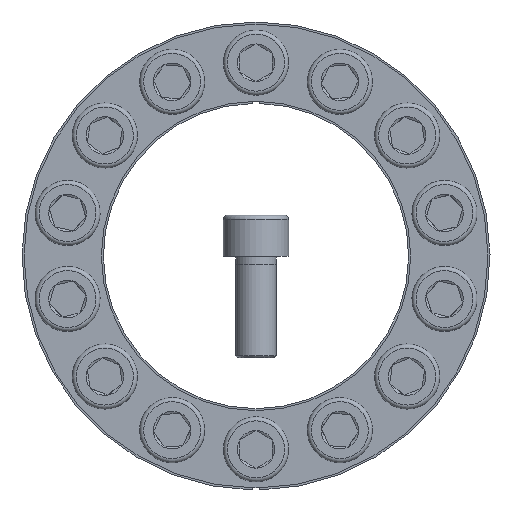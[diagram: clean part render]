
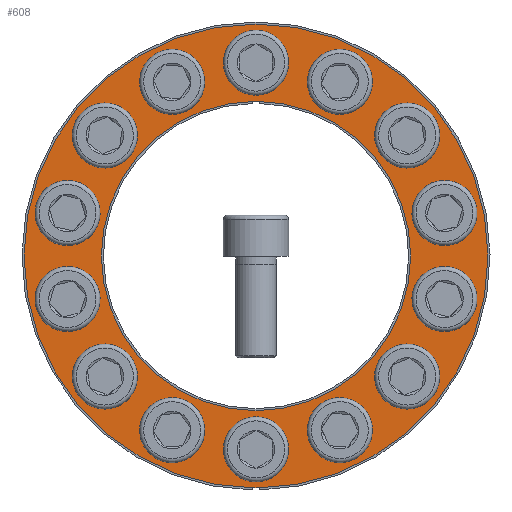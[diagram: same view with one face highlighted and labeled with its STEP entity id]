
A CAD part, front view. The second image highlights one B-rep face of the part: STEP entity #608.
In plain terms, the highlighted planar face has unit normal (0, -1, 0).
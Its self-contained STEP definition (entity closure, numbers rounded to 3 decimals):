
#608 = ADVANCED_FACE( '', ( #1149, #1150, #1151, #1152, #1153, #1154, #1155, #1156, #1157, #1158, #1159, #1160, #1161, #1162, #1163, #1164 ), #1165, .T. );
#1149 = FACE_BOUND( '', #2142, .T. );
#1150 = FACE_BOUND( '', #2143, .T. );
#1151 = FACE_BOUND( '', #2144, .T. );
#1152 = FACE_BOUND( '', #2145, .T. );
#1153 = FACE_BOUND( '', #2146, .T. );
#1154 = FACE_BOUND( '', #2147, .T. );
#1155 = FACE_BOUND( '', #2148, .T. );
#1156 = FACE_BOUND( '', #2149, .T. );
#1157 = FACE_BOUND( '', #2150, .T. );
#1158 = FACE_BOUND( '', #2151, .T. );
#1159 = FACE_BOUND( '', #2152, .T. );
#1160 = FACE_BOUND( '', #2153, .T. );
#1161 = FACE_BOUND( '', #2154, .T. );
#1162 = FACE_BOUND( '', #2155, .T. );
#1163 = FACE_BOUND( '', #2156, .T. );
#1164 = FACE_OUTER_BOUND( '', #2157, .T. );
#1165 = PLANE( '', #2158 );
#2142 = EDGE_LOOP( '', ( #3163 ) );
#2143 = EDGE_LOOP( '', ( #3164 ) );
#2144 = EDGE_LOOP( '', ( #3165 ) );
#2145 = EDGE_LOOP( '', ( #3166 ) );
#2146 = EDGE_LOOP( '', ( #3167 ) );
#2147 = EDGE_LOOP( '', ( #3168 ) );
#2148 = EDGE_LOOP( '', ( #3169 ) );
#2149 = EDGE_LOOP( '', ( #3170 ) );
#2150 = EDGE_LOOP( '', ( #3171 ) );
#2151 = EDGE_LOOP( '', ( #3172 ) );
#2152 = EDGE_LOOP( '', ( #3173 ) );
#2153 = EDGE_LOOP( '', ( #3174 ) );
#2154 = EDGE_LOOP( '', ( #3175 ) );
#2155 = EDGE_LOOP( '', ( #3176 ) );
#2156 = EDGE_LOOP( '', ( #3177 ) );
#2157 = EDGE_LOOP( '', ( #3178 ) );
#2158 = AXIS2_PLACEMENT_3D( '', #3179, #3180, #3181 );
#3163 = ORIENTED_EDGE( '', *, *, #5494, .T. );
#3164 = ORIENTED_EDGE( '', *, *, #5495, .T. );
#3165 = ORIENTED_EDGE( '', *, *, #5496, .T. );
#3166 = ORIENTED_EDGE( '', *, *, #5497, .T. );
#3167 = ORIENTED_EDGE( '', *, *, #5498, .T. );
#3168 = ORIENTED_EDGE( '', *, *, #5499, .T. );
#3169 = ORIENTED_EDGE( '', *, *, #5500, .T. );
#3170 = ORIENTED_EDGE( '', *, *, #5501, .T. );
#3171 = ORIENTED_EDGE( '', *, *, #5502, .T. );
#3172 = ORIENTED_EDGE( '', *, *, #5503, .T. );
#3173 = ORIENTED_EDGE( '', *, *, #5504, .T. );
#3174 = ORIENTED_EDGE( '', *, *, #5505, .T. );
#3175 = ORIENTED_EDGE( '', *, *, #5506, .T. );
#3176 = ORIENTED_EDGE( '', *, *, #5507, .T. );
#3177 = ORIENTED_EDGE( '', *, *, #5508, .F. );
#3178 = ORIENTED_EDGE( '', *, *, #5509, .T. );
#3179 = CARTESIAN_POINT( '', ( 0., -14., -57.5 ) );
#3180 = DIRECTION( '', ( 0., -1., 0. ) );
#3181 = DIRECTION( '', ( 0., 0., -1. ) );
#5494 = EDGE_CURVE( '', #6104, #6104, #6105, .T. );
#5495 = EDGE_CURVE( '', #6106, #6106, #6107, .T. );
#5496 = EDGE_CURVE( '', #6108, #6108, #6109, .T. );
#5497 = EDGE_CURVE( '', #6110, #6110, #6111, .T. );
#5498 = EDGE_CURVE( '', #6112, #6112, #6113, .T. );
#5499 = EDGE_CURVE( '', #6114, #6114, #6115, .T. );
#5500 = EDGE_CURVE( '', #6116, #6116, #6117, .T. );
#5501 = EDGE_CURVE( '', #6118, #6118, #6119, .T. );
#5502 = EDGE_CURVE( '', #6120, #6120, #6121, .T. );
#5503 = EDGE_CURVE( '', #6122, #6122, #6123, .T. );
#5504 = EDGE_CURVE( '', #6124, #6124, #6125, .T. );
#5505 = EDGE_CURVE( '', #6126, #6126, #6127, .T. );
#5506 = EDGE_CURVE( '', #6128, #6128, #6129, .T. );
#5507 = EDGE_CURVE( '', #6130, #6130, #6131, .T. );
#5508 = EDGE_CURVE( '', #6132, #6132, #6133, .T. );
#5509 = EDGE_CURVE( '', #6134, #6134, #6135, .T. );
#6104 = VERTEX_POINT( '', #7016 );
#6105 = CIRCLE( '', #7017, 5. );
#6106 = VERTEX_POINT( '', #7018 );
#6107 = CIRCLE( '', #7019, 5. );
#6108 = VERTEX_POINT( '', #7020 );
#6109 = CIRCLE( '', #7021, 5. );
#6110 = VERTEX_POINT( '', #7022 );
#6111 = CIRCLE( '', #7023, 5. );
#6112 = VERTEX_POINT( '', #7024 );
#6113 = CIRCLE( '', #7025, 5. );
#6114 = VERTEX_POINT( '', #7026 );
#6115 = CIRCLE( '', #7027, 5. );
#6116 = VERTEX_POINT( '', #7028 );
#6117 = CIRCLE( '', #7029, 5. );
#6118 = VERTEX_POINT( '', #7030 );
#6119 = CIRCLE( '', #7031, 5. );
#6120 = VERTEX_POINT( '', #7032 );
#6121 = CIRCLE( '', #7033, 5. );
#6122 = VERTEX_POINT( '', #7034 );
#6123 = CIRCLE( '', #7035, 5. );
#6124 = VERTEX_POINT( '', #7036 );
#6125 = CIRCLE( '', #7037, 5. );
#6126 = VERTEX_POINT( '', #7038 );
#6127 = CIRCLE( '', #7039, 5. );
#6128 = VERTEX_POINT( '', #7040 );
#6129 = CIRCLE( '', #7041, 5. );
#6130 = VERTEX_POINT( '', #7042 );
#6131 = CIRCLE( '', #7043, 5. );
#6132 = VERTEX_POINT( '', #7044 );
#6133 = CIRCLE( '', #7045, 38. );
#6134 = VERTEX_POINT( '', #7046 );
#6135 = CIRCLE( '', #7047, 57. );
#7016 = CARTESIAN_POINT( '', ( -20.609, -14., 37.796 ) );
#7017 = AXIS2_PLACEMENT_3D( '', #8718, #8719, #8720 );
#7018 = CARTESIAN_POINT( '', ( -37.137, -14., 24.616 ) );
#7019 = AXIS2_PLACEMENT_3D( '', #8721, #8722, #8723 );
#7020 = CARTESIAN_POINT( '', ( -46.309, -14., 5.57 ) );
#7021 = AXIS2_PLACEMENT_3D( '', #8724, #8725, #8726 );
#7022 = CARTESIAN_POINT( '', ( -46.309, -14., -15.57 ) );
#7023 = AXIS2_PLACEMENT_3D( '', #8727, #8728, #8729 );
#7024 = CARTESIAN_POINT( '', ( -37.137, -14., -34.616 ) );
#7025 = AXIS2_PLACEMENT_3D( '', #8730, #8731, #8732 );
#7026 = CARTESIAN_POINT( '', ( -20.609, -14., -47.796 ) );
#7027 = AXIS2_PLACEMENT_3D( '', #8733, #8734, #8735 );
#7028 = CARTESIAN_POINT( '', ( 0., -14., -52.5 ) );
#7029 = AXIS2_PLACEMENT_3D( '', #8736, #8737, #8738 );
#7030 = CARTESIAN_POINT( '', ( 20.609, -14., -47.796 ) );
#7031 = AXIS2_PLACEMENT_3D( '', #8739, #8740, #8741 );
#7032 = CARTESIAN_POINT( '', ( 37.137, -14., -34.616 ) );
#7033 = AXIS2_PLACEMENT_3D( '', #8742, #8743, #8744 );
#7034 = CARTESIAN_POINT( '', ( 51.309, -14., -10.57 ) );
#7035 = AXIS2_PLACEMENT_3D( '', #8745, #8746, #8747 );
#7036 = CARTESIAN_POINT( '', ( 51.309, -14., 10.57 ) );
#7037 = AXIS2_PLACEMENT_3D( '', #8748, #8749, #8750 );
#7038 = CARTESIAN_POINT( '', ( 37.137, -14., 24.616 ) );
#7039 = AXIS2_PLACEMENT_3D( '', #8751, #8752, #8753 );
#7040 = CARTESIAN_POINT( '', ( 20.609, -14., 37.796 ) );
#7041 = AXIS2_PLACEMENT_3D( '', #8754, #8755, #8756 );
#7042 = CARTESIAN_POINT( '', ( 0., -14., 42.5 ) );
#7043 = AXIS2_PLACEMENT_3D( '', #8757, #8758, #8759 );
#7044 = CARTESIAN_POINT( '', ( 0., -14., -38. ) );
#7045 = AXIS2_PLACEMENT_3D( '', #8760, #8761, #8762 );
#7046 = CARTESIAN_POINT( '', ( 0., -14., -57. ) );
#7047 = AXIS2_PLACEMENT_3D( '', #8763, #8764, #8765 );
#8718 = CARTESIAN_POINT( '', ( -20.609, -14., 42.796 ) );
#8719 = DIRECTION( '', ( 0., 1., 0. ) );
#8720 = DIRECTION( '', ( 0., 0., -1. ) );
#8721 = CARTESIAN_POINT( '', ( -37.137, -14., 29.616 ) );
#8722 = DIRECTION( '', ( 0., 1., 0. ) );
#8723 = DIRECTION( '', ( 0., 0., -1. ) );
#8724 = CARTESIAN_POINT( '', ( -46.309, -14., 10.57 ) );
#8725 = DIRECTION( '', ( 0., 1., 0. ) );
#8726 = DIRECTION( '', ( 0., 0., -1. ) );
#8727 = CARTESIAN_POINT( '', ( -46.309, -14., -10.57 ) );
#8728 = DIRECTION( '', ( 0., 1., 0. ) );
#8729 = DIRECTION( '', ( 0., 0., -1. ) );
#8730 = CARTESIAN_POINT( '', ( -37.137, -14., -29.616 ) );
#8731 = DIRECTION( '', ( 0., 1., 0. ) );
#8732 = DIRECTION( '', ( 0., 0., -1. ) );
#8733 = CARTESIAN_POINT( '', ( -20.609, -14., -42.796 ) );
#8734 = DIRECTION( '', ( 0., 1., 0. ) );
#8735 = DIRECTION( '', ( 0., 0., -1. ) );
#8736 = CARTESIAN_POINT( '', ( 0., -14., -47.5 ) );
#8737 = DIRECTION( '', ( 0., 1., 0. ) );
#8738 = DIRECTION( '', ( 0., 0., -1. ) );
#8739 = CARTESIAN_POINT( '', ( 20.609, -14., -42.796 ) );
#8740 = DIRECTION( '', ( 0., 1., 0. ) );
#8741 = DIRECTION( '', ( 0., 0., -1. ) );
#8742 = CARTESIAN_POINT( '', ( 37.137, -14., -29.616 ) );
#8743 = DIRECTION( '', ( 0., 1., 0. ) );
#8744 = DIRECTION( '', ( 0., 0., -1. ) );
#8745 = CARTESIAN_POINT( '', ( 46.309, -14., -10.57 ) );
#8746 = DIRECTION( '', ( 0., 1., 0. ) );
#8747 = DIRECTION( '', ( 1., 0., 0. ) );
#8748 = CARTESIAN_POINT( '', ( 46.309, -14., 10.57 ) );
#8749 = DIRECTION( '', ( 0., 1., 0. ) );
#8750 = DIRECTION( '', ( 1., 0., 0. ) );
#8751 = CARTESIAN_POINT( '', ( 37.137, -14., 29.616 ) );
#8752 = DIRECTION( '', ( 0., 1., 0. ) );
#8753 = DIRECTION( '', ( 0., 0., -1. ) );
#8754 = CARTESIAN_POINT( '', ( 20.609, -14., 42.796 ) );
#8755 = DIRECTION( '', ( 0., 1., 0. ) );
#8756 = DIRECTION( '', ( 0., 0., -1. ) );
#8757 = CARTESIAN_POINT( '', ( 0., -14., 47.5 ) );
#8758 = DIRECTION( '', ( 0., 1., 0. ) );
#8759 = DIRECTION( '', ( 0., 0., -1. ) );
#8760 = CARTESIAN_POINT( '', ( 0., -14., 0. ) );
#8761 = DIRECTION( '', ( 0., -1., 0. ) );
#8762 = DIRECTION( '', ( 0., 0., -1. ) );
#8763 = CARTESIAN_POINT( '', ( 0., -14., 0. ) );
#8764 = DIRECTION( '', ( 0., -1., 0. ) );
#8765 = DIRECTION( '', ( 0., 0., -1. ) );
